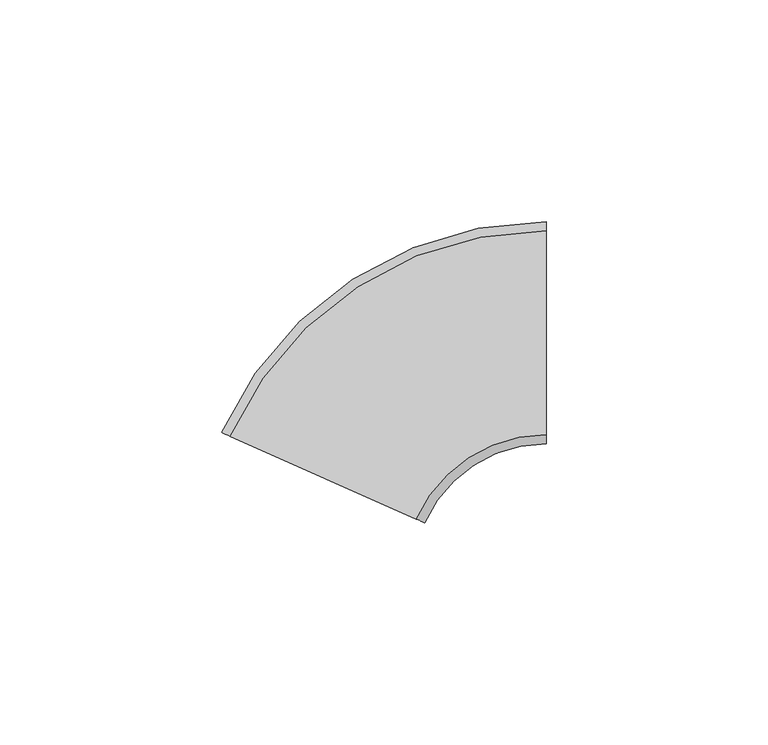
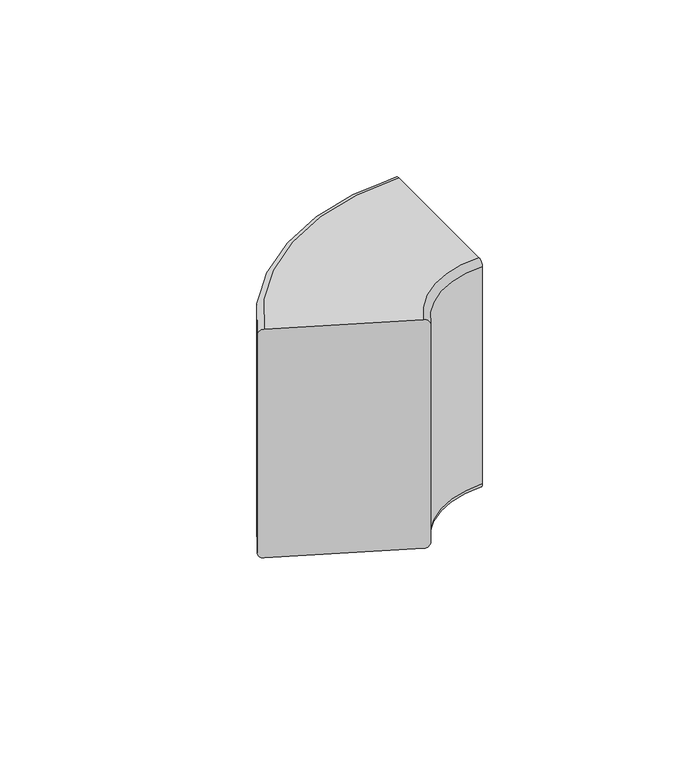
"""IFC4 building model written with IfcOpenShell, lengths in millimetres: duct fitting geometry, Угол внутренний переменный от 80° до 100° - для кабель-каналов DLP - белый : Угол внутренний переменный от 60° до 120° - для кабель-каналов DLP 50х80 - белый."""

from ifc_helpers import new_model, si_unit, point, frame, origin, place, context, project, spatial, polyline, circle_curve, ellipse_curve, trimmed, source, transform, mapped, element, save
from ifc_brep_helpers import plane_surface, cylinder_surface, revolved_surface, advanced_brep


def duct_fitting_f2713703(model_context):
    return source(origin(), model_context, "Body", "AdvancedBrep", [
        advanced_brep(
        [(-16.2565457, -45.6450572, 40.0), (-18.0836366, -44.8315839, 38.0), (-18.0836366, -44.8315839, -38.0), (-16.2565457, -45.6450572, -40.0), (25.7665454, -64.3549428, -40.0), (27.5936363, -65.1684161, -38.0), (27.5936363, -65.1684161, 38.0), (25.7665454, -64.3549428, 40.0), (55.0, 0.6294846, 40.0), (55.0, -45.3705154, 40.0), (55.0, -47.3705154, 38.0), (55.0, -47.3705154, -38.0), (55.0, -45.3705154, -40.0), (55.0, 0.6294846, -40.0), (55.0, 2.6294846, -38.0), (55.0, 2.6294846, 38.0)],
        [
            (0, 1, circle_curve(frame((-16.2565457, -45.6450572, 38.0), z_axis=(-0.40673664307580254, -0.9135454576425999, 0.0), x_axis=(-0.9135454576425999, 0.40673664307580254, 0.0)), 2.0)),
            (1, 2),
            (2, 3, circle_curve(frame((-16.2565457, -45.6450572, -38.0), z_axis=(-0.40673664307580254, -0.9135454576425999, 0.0), x_axis=(-0.9135454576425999, 0.40673664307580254, 0.0)), 2.0)),
            (3, 4),
            (4, 5, circle_curve(frame((25.7665454, -64.3549428, -38.0), z_axis=(-0.40673664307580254, -0.9135454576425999, 0.0), x_axis=(-0.9135454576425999, 0.40673664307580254, 0.0)), 2.0)),
            (5, 6),
            (6, 7, circle_curve(frame((25.7665454, -64.3549428, 38.0), z_axis=(-0.40673664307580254, -0.9135454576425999, 0.0), x_axis=(-0.9135454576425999, 0.40673664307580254, 0.0)), 2.0)),
            (7, 0),
            (8, 9),
            (9, 10, circle_curve(frame((55.0, -45.3705154, 38.0), z_axis=(1.0, 0.0, 0.0), x_axis=(0.0, 1.0, 0.0)), 2.0)),
            (10, 11),
            (11, 12, circle_curve(frame((55.0, -45.3705154, -38.0), z_axis=(1.0, 0.0, 0.0), x_axis=(0.0, 1.0, 0.0)), 2.0)),
            (12, 13),
            (13, 14, circle_curve(frame((55.0, 0.6294846, -38.0), z_axis=(1.0, 0.0, 0.0), x_axis=(0.0, 1.0, 0.0)), 2.0)),
            (14, 15),
            (15, 8, circle_curve(frame((55.0, 0.6294846, 38.0), z_axis=(1.0, 0.0, 0.0), x_axis=(0.0, 1.0, 0.0)), 2.0)),
            (15, 1, circle_curve(frame((55.0, -77.3705154, 38.0), z_axis=(0.0, 0.0, 1.0), x_axis=(-0.9135454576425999, 0.4067366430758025, 0.0)), 80.0)),
            (0, 8, circle_curve(frame((55.0, -77.3705154, 40.0), z_axis=(0.0, 0.0, -1.0), x_axis=(-0.9135454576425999, 0.4067366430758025, 0.0)), 78.0)),
            (14, 2, circle_curve(frame((55.0, -77.3705154, -38.0), z_axis=(0.0, 0.0, 1.0), x_axis=(-0.9135454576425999, 0.4067366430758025, 0.0)), 80.0)),
            (13, 3, circle_curve(frame((55.0, -77.3705154, -40.0), z_axis=(0.0, 0.0, 1.0), x_axis=(-0.9135454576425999, 0.4067366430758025, 0.0)), 78.0)),
            (12, 4, circle_curve(frame((55.0, -77.3705154, -40.0), z_axis=(0.0, 0.0, 1.0), x_axis=(-0.9135454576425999, 0.4067366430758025, 0.0)), 32.0)),
            (11, 5, circle_curve(frame((55.0, -77.3705154, -38.0), z_axis=(0.0, 0.0, 1.0), x_axis=(-0.9135454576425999, 0.4067366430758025, 0.0)), 30.0)),
            (10, 6, circle_curve(frame((55.0, -77.3705154, 38.0), z_axis=(0.0, 0.0, 1.0), x_axis=(-0.9135454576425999, 0.4067366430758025, 0.0)), 30.0)),
            (9, 7, circle_curve(frame((55.0, -77.3705154, 40.0), z_axis=(0.0, 0.0, 1.0), x_axis=(-0.9135454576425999, 0.4067366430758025, 0.0)), 32.0)),
        ],
        [
            plane_surface(frame((4.7549998, -55.0, 0.0), z_axis=(-0.40673664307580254, -0.9135454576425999, 0.0), x_axis=(0.0, 0.0, 1.0))),
            plane_surface(frame((55.0, -22.3705154, 0.0), z_axis=(1.0, 0.0, 0.0), x_axis=(0.0, 0.0, 1.0))),
            revolved_surface(trimmed(ellipse_curve(frame((-16.2565457, -45.6450572, 38.0), z_axis=(-0.40673664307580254, -0.9135454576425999, 0.0), x_axis=(-0.9135454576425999, 0.40673664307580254, 0.0)), 2.0, 2.0), [point((-16.2565457, -45.6450572, 40.0))], [point((-18.0836366, -44.8315839, 38.0))], True, "CARTESIAN"), (55.0, -77.3705154, 0.0), (0.0, 0.0, -1.0)),
            cylinder_surface(frame((55.0, -77.3705154, 0.0), z_axis=(0.0, 0.0, -1.0), x_axis=(-0.9135454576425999, 0.4067366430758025, 0.0)), 80.0),
            revolved_surface(trimmed(ellipse_curve(frame((-16.2565457, -45.6450572, -38.0), z_axis=(-0.40673664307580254, -0.9135454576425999, 0.0), x_axis=(-0.9135454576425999, 0.40673664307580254, 0.0)), 2.0, 2.0), [point((-18.0836366, -44.8315839, -38.0))], [point((-16.2565457, -45.6450572, -40.0))], True, "CARTESIAN"), (55.0, -77.3705154, 0.0), (0.0, 0.0, -1.0)),
            plane_surface(frame((55.0, -77.3705154, -40.0), z_axis=(0.0, 0.0, -1.0), x_axis=(-0.9135454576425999, 0.4067366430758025, 0.0))),
            revolved_surface(trimmed(ellipse_curve(frame((25.7665454, -64.3549428, -38.0), z_axis=(-0.40673664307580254, -0.9135454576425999, 0.0), x_axis=(-0.9135454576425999, 0.40673664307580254, 0.0)), 2.0, 2.0), [point((25.7665454, -64.3549428, -40.0))], [point((27.5936363, -65.1684161, -38.0))], True, "CARTESIAN"), (55.0, -77.3705154, 0.0), (0.0, 0.0, -1.0)),
            revolved_surface(polyline([(27.593636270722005, -65.16841610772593, -38.0), (27.593636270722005, -65.16841610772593, 38.0)]), (55.0, -77.3705154, 0.0), (0.0, 0.0, -1.0)),
            revolved_surface(trimmed(ellipse_curve(frame((25.7665454, -64.3549428, 38.0), z_axis=(-0.40673664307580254, -0.9135454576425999, 0.0), x_axis=(-0.9135454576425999, 0.40673664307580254, 0.0)), 2.0, 2.0), [point((27.5936363, -65.1684161, 38.0))], [point((25.7665454, -64.3549428, 40.0))], True, "CARTESIAN"), (55.0, -77.3705154, 0.0), (0.0, 0.0, -1.0)),
            plane_surface(frame((55.0, -77.3705154, 40.0), z_axis=(0.0, 0.0, 1.0), x_axis=(-0.9135454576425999, 0.4067366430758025, 0.0))),
        ],
        [
            (0, [[1, 2, 3, 4, 5, 6, 7, 8]]),
            (1, [[9, 10, 11, 12, 13, 14, 15, 16]]),
            (2, [[17, -1, 18, -16]]),
            (3, [[19, -2, -17, -15]]),
            (4, [[20, -3, -19, -14]]),
            (5, [[21, -4, -20, -13]]),
            (6, [[22, -5, -21, -12]]),
            (7, [[23, -6, -22, -11]]),
            (8, [[24, -7, -23, -10]]),
            (9, [[-18, -8, -24, -9]]),
        ],
    ),
    ])


if __name__ == "__main__":
    model = new_model("IFC4")
    model_context = context("Model", 3, world=origin())
    ifc_project = project(units=[si_unit("LENGTHUNIT", "METRE", prefix="MILLI")], contexts=[model_context])
    site = spatial("IfcSite", under=ifc_project)
    building = spatial("IfcBuilding", under=site)
    placement = place(None, origin())
    duct_fitting_shape = duct_fitting_f2713703(model_context)
    element("IfcDuctFitting", 1, ObjectType="Угол внутренний переменный от 80° до 100° - для кабель-каналов DLP - белый : Угол внутренний переменный от 60° до 120° - для кабель-каналов DLP 50х80 - белый", at=placement, inside=building, context=model_context, shape_type="MappedRepresentation", body=[
        mapped(duct_fitting_shape, transform((0.0, 0.0, 0.0), x_axis=(1.0, 0.0, 0.0), y_axis=(0.0, 1.0, 0.0), z_axis=(0.0, 0.0, 1.0))),
    ])
    save(model, "model.ifc")
